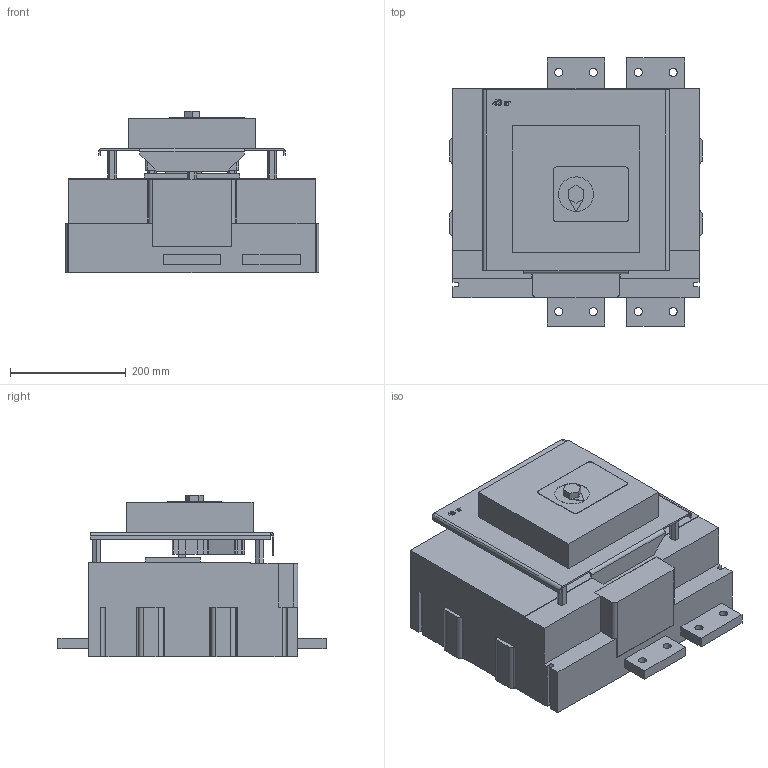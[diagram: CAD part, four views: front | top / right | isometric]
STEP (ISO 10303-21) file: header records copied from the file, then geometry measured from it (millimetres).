
FILE_DESCRIPTION (( 'STEP AP214' ), '1' );
FILE_NAME ('ÂÀ 53(55)-43 DC ñ ýëåêòðîìàãíèòíûì ïðèâîäîì 1600À.STEP', '2023-02-09T06:43:25', ( '' ), ( '' ), 'SwSTEP 2.0', 'SolidWorks 2018', '' );
FILE_SCHEMA (( 'AUTOMOTIVE_DESIGN' ));
Length unit declared in the file: millimetre
Products named in the file (1): ÂÀ 53(55)-43 DC ñ ýëåêòðîìàãíèòíûì ïðèâîäîì 1600À
Bounding box: 438 x 462.5 x 279.3 mm (x, y, z)
Volume: 28282550.5 mm3; surface area: 974422.1 mm2
Topology: 1 solids, 1 shells, 250 faces, 742 edges, 511 vertices
Faces by surface type: plane 200, cylinder 48, bspline 2
Full cylindrical faces by diameter (mm): 14 x8, 60 x1
Entity records: 8691 total; most frequent: CARTESIAN_POINT 1821, ORIENTED_EDGE 1466, DIRECTION 1298, EDGE_CURVE 733, VECTOR 608, LINE 608, VERTEX_POINT 511, AXIS2_PLACEMENT_3D 345
